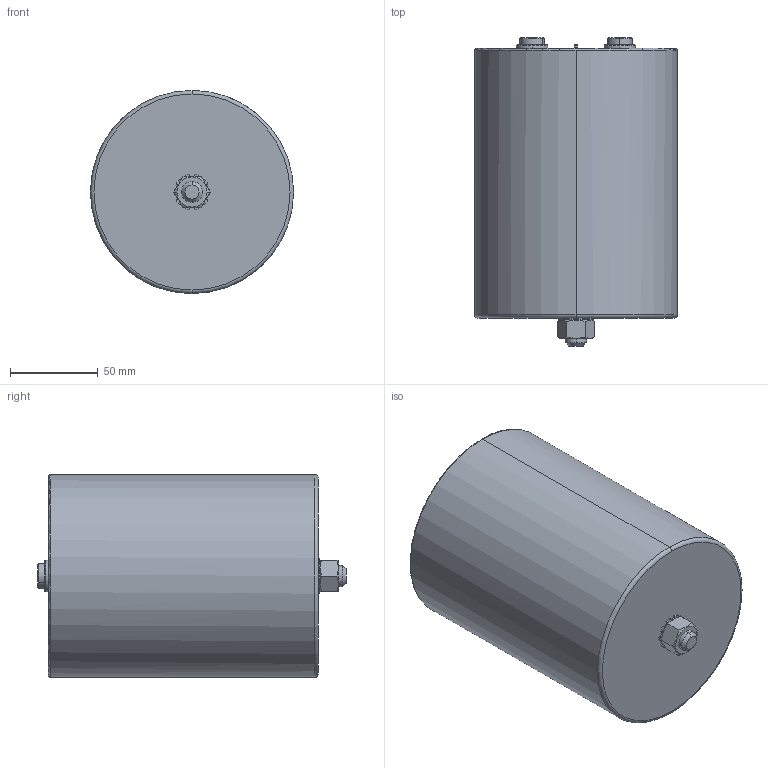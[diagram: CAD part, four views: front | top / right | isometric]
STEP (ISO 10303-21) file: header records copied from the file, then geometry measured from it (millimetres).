
FILE_DESCRIPTION (( 'STEP AP214' ), '1' );
FILE_NAME ('B25694M Series D116 Hc154 Ht160.STEP', '2025-07-24T05:40:03', ( '' ), ( '' ), 'SwSTEP 2.0', 'SolidWorks 2019', '' );
FILE_SCHEMA (( 'AUTOMOTIVE_DESIGN' ));
Length unit declared in the file: millimetre
Products named in the file (1): B25694M Series D116 Hc154 Ht160
Bounding box: 116 x 176 x 116 mm (x, y, z)
Volume: 1632661.4 mm3; surface area: 78671.9 mm2
Topology: 1 solids, 2 shells, 143 faces, 347 edges, 208 vertices
Faces by surface type: plane 60, cylinder 51, cone 22, torus 6, sphere 4
Entity records: 4281 total; most frequent: CARTESIAN_POINT 823, DIRECTION 791, ORIENTED_EDGE 678, EDGE_CURVE 339, AXIS2_PLACEMENT_3D 320, VERTEX_POINT 208, CIRCLE 176, EDGE_LOOP 153
